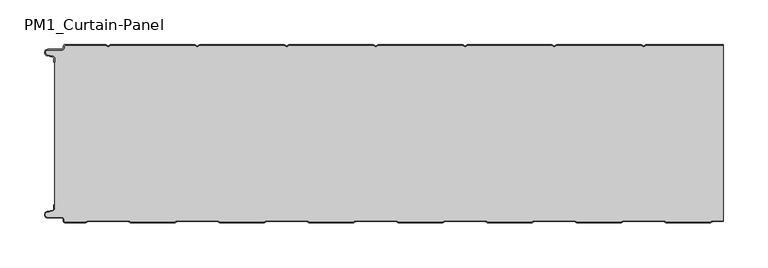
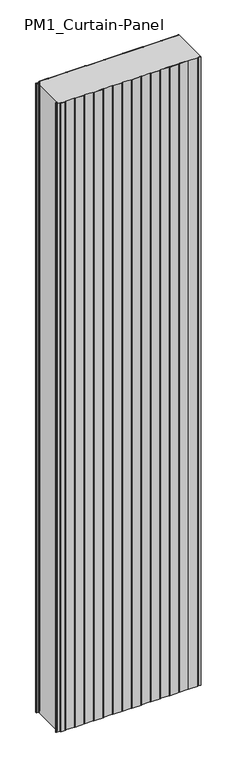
"""IFC4 building model written with IfcOpenShell, lengths in millimetres: plate geometry, PM1_Curtain-Panel : ACH_PM1_Stone-wool-Panel_200M."""

from ifc_helpers import new_model, si_unit, point, frame_2d, origin, origin_with_axes, place, context, project, spatial, polyline, circle_curve, trimmed, segment, composite_curve, outline, extrude, source, transform, mapped, element, save


def pm1_curtain_panel_7c5191db(model_context):
    return source(origin(), model_context, "Body", "SweptSolid", [
        extrude(outline(composite_curve([segment(trimmed(circle_curve(frame_2d((-377.0, -15.878557)), 2.0), [point((-375.0, -15.878557))], [point((-376.5500978, -13.9298169))], True, "CARTESIAN"), True, "CONTINUOUS"), segment(polyline([(-376.5500978, -13.9298169), (-382.7098239, -12.507732)]), True, "CONTINUOUS"), segment(trimmed(circle_curve(frame_2d((-381.9, -9.0)), 3.6), [point((-382.7098239, -12.507732))], [point((-381.9, -5.4))], False, "CARTESIAN"), True, "CONTINUOUS"), segment(polyline([(-381.9, -5.4), (-366.4, -5.4)]), True, "CONTINUOUS"), segment(trimmed(circle_curve(frame_2d((-366.4, -3.4)), 2.0), [point((-366.4, -5.4))], [point((-364.4, -3.4))], True, "CARTESIAN"), True, "CONTINUOUS"), segment(polyline([(-364.4, -3.4), (-364.4, -2.0)]), True, "CONTINUOUS"), segment(trimmed(circle_curve(frame_2d((-362.4, -2.0)), 2.0), [point((-364.4, -2.0))], [point((-362.4, 0.0))], False, "CARTESIAN"), True, "CONTINUOUS"), segment(polyline([(-362.4, 0.0), (-317.0999995, 0.0), (-314.4, -1.5588455), (-311.7000005, 0.0), (-217.0999995, 0.0), (-214.4, -1.5588455), (-211.7000005, 0.0), (-117.0999995, 0.0), (-114.4, -1.5588455), (-111.7000005, 0.0), (-17.0999995, 0.0), (-14.4, -1.5588455), (-11.7000005, 0.0), (82.9000005, 0.0), (85.6, -1.5588455), (88.2999995, 0.0), (182.9000005, 0.0), (185.6, -1.5588455), (188.2999995, 0.0), (282.9000005, 0.0), (285.6, -1.5588455), (288.2999995, 0.0), (375.0, 0.0), (375.0, -0.8), (288.5143588, -0.8), (285.6, -2.482606), (282.6856412, -0.8), (188.5143588, -0.8), (185.6, -2.482606), (182.6856412, -0.8), (88.5143588, -0.8), (85.6, -2.482606), (82.6856412, -0.8), (-11.4856412, -0.8), (-14.4, -2.482606), (-17.3143588, -0.8), (-111.4856412, -0.8), (-114.4, -2.482606), (-117.3143588, -0.8), (-211.4856412, -0.8), (-214.4, -2.482606), (-217.3143588, -0.8), (-311.4856412, -0.8), (-314.4, -2.482606), (-317.3143588, -0.8), (-362.4, -0.8)]), True, "CONTINUOUS"), segment(trimmed(circle_curve(frame_2d((-362.4, -2.0)), 1.2), [point((-362.4, -0.8))], [point((-363.6, -2.0))], True, "CARTESIAN"), True, "CONTINUOUS"), segment(polyline([(-363.6, -2.0), (-363.6, -3.4)]), True, "CONTINUOUS"), segment(trimmed(circle_curve(frame_2d((-366.4, -3.4)), 2.8), [point((-363.6, -3.4))], [point((-366.4, -6.2))], False, "CARTESIAN"), True, "CONTINUOUS"), segment(polyline([(-366.4, -6.2), (-381.9, -6.2)]), True, "CONTINUOUS"), segment(trimmed(circle_curve(frame_2d((-381.9, -9.0)), 2.8), [point((-381.9, -6.2))], [point((-382.529863, -11.7282362))], True, "CARTESIAN"), True, "CONTINUOUS"), segment(polyline([(-382.529863, -11.7282362), (-376.370137, -13.150321)]), True, "CONTINUOUS"), segment(trimmed(circle_curve(frame_2d((-377.0, -15.878557)), 2.8), [point((-376.370137, -13.150321))], [point((-374.2, -15.878557))], False, "CARTESIAN"), True, "CONTINUOUS"), segment(polyline([(-374.2, -15.878557), (-374.2, -20.0), (-375.0, -20.0), (-375.0, -15.878557)]), True, "CONTINUOUS")], self_intersect=False)), origin_with_axes(), (0.0, 0.0, 1.0), 3500.0),
        extrude(outline(composite_curve([segment(polyline([(-374.2, -184.121443), (-374.2, -15.8785573)]), True, "CONTINUOUS"), segment(trimmed(circle_curve(frame_2d((-377.0, -15.8785573)), 2.8), [point((-374.2, -15.8785573))], [point((-376.370137, -13.1503212))], True, "CARTESIAN"), True, "CONTINUOUS"), segment(polyline([(-376.370137, -13.1503212), (-382.5298631, -11.7282362)]), True, "CONTINUOUS"), segment(trimmed(circle_curve(frame_2d((-381.9, -9.0)), 2.8), [point((-382.5298631, -11.7282362))], [point((-381.9, -6.2))], False, "CARTESIAN"), True, "CONTINUOUS"), segment(polyline([(-381.9, -6.2), (-366.4000001, -6.2)]), True, "CONTINUOUS"), segment(trimmed(circle_curve(frame_2d((-366.4000001, -3.4)), 2.8), [point((-366.4000001, -6.2))], [point((-363.6000001, -3.4))], True, "CARTESIAN"), True, "CONTINUOUS"), segment(polyline([(-363.6000001, -3.4), (-363.6000001, -2.0)]), True, "CONTINUOUS"), segment(trimmed(circle_curve(frame_2d((-362.4000001, -2.0)), 1.2), [point((-363.6000001, -2.0))], [point((-362.4000001, -0.8))], False, "CARTESIAN"), True, "CONTINUOUS"), segment(polyline([(-362.4000001, -0.8), (-317.3143589, -0.8), (-314.4000001, -2.482606), (-311.4856412, -0.8), (-217.3143589, -0.8), (-214.4000001, -2.482606), (-211.4856412, -0.8), (-117.3143589, -0.8), (-114.4000001, -2.482606), (-111.4856412, -0.8), (-17.3143589, -0.8), (-14.4000001, -2.482606), (-11.4856412, -0.8), (82.6856411, -0.8), (85.5999999, -2.482606), (88.5143588, -0.8), (182.6856411, -0.8), (185.5999999, -2.482606), (188.5143588, -0.8), (282.6856411, -0.8), (285.5999999, -2.482606), (288.5143588, -0.8), (375.0, -0.8), (375.0, -197.7), (362.9837184, -197.7), (360.3856408, -199.2), (310.8105122, -199.2), (308.2124346, -197.7), (262.9837184, -197.7), (260.3856408, -199.2), (210.8105122, -199.2), (208.2124346, -197.7), (162.9837184, -197.7), (160.3856408, -199.2), (110.8105122, -199.2), (108.2124346, -197.7), (62.9837184, -197.7), (60.3856408, -199.2), (10.8105122, -199.2), (8.2124346, -197.7), (-37.0162816, -197.7), (-39.6143592, -199.2), (-89.1894878, -199.2), (-91.7875654, -197.7), (-137.0162816, -197.7), (-139.6143592, -199.2), (-189.1894878, -199.2), (-191.7875654, -197.7), (-237.0162816, -197.7), (-239.6143592, -199.2), (-289.1894878, -199.2), (-291.7875654, -197.7), (-337.0162816, -197.7), (-339.6143592, -199.2), (-362.4, -199.2)]), True, "CONTINUOUS"), segment(trimmed(circle_curve(frame_2d((-362.4, -198.0)), 1.2), [point((-362.4, -199.2))], [point((-363.6, -198.0))], False, "CARTESIAN"), True, "CONTINUOUS"), segment(polyline([(-363.6, -198.0), (-363.6, -196.5999998)]), True, "CONTINUOUS"), segment(trimmed(circle_curve(frame_2d((-366.4, -196.5999998)), 2.8), [point((-363.6, -196.5999998))], [point((-366.4, -193.7999998))], True, "CARTESIAN"), True, "CONTINUOUS"), segment(polyline([(-366.4, -193.7999998), (-381.9, -193.7999998)]), True, "CONTINUOUS"), segment(trimmed(circle_curve(frame_2d((-381.9, -191.0)), 2.7999998), [point((-381.9, -193.7999998))], [point((-382.529863, -188.271764))], False, "CARTESIAN"), True, "CONTINUOUS"), segment(polyline([(-382.529863, -188.271764), (-376.370137, -186.8496792)]), True, "CONTINUOUS"), segment(trimmed(circle_curve(frame_2d((-377.0, -184.121443)), 2.8), [point((-376.370137, -186.8496792))], [point((-374.2, -184.121443))], True, "CARTESIAN"), True, "CONTINUOUS")], self_intersect=False)), origin_with_axes(), (0.0, 0.0, 1.0), 3500.0),
        extrude(outline(composite_curve([segment(trimmed(circle_curve(frame_2d((-362.4, -198.0)), 2.0), [point((-362.4, -200.0))], [point((-364.4, -198.0))], False, "CARTESIAN"), True, "CONTINUOUS"), segment(polyline([(-364.4, -198.0), (-364.4, -196.6)]), True, "CONTINUOUS"), segment(trimmed(circle_curve(frame_2d((-366.4, -196.6)), 2.0), [point((-364.4, -196.6))], [point((-366.4, -194.6))], True, "CARTESIAN"), True, "CONTINUOUS"), segment(polyline([(-366.4, -194.6), (-381.9, -194.6)]), True, "CONTINUOUS"), segment(trimmed(circle_curve(frame_2d((-381.9, -191.0)), 3.6), [point((-381.9, -194.6))], [point((-382.7098239, -187.4922678))], False, "CARTESIAN"), True, "CONTINUOUS"), segment(polyline([(-382.7098239, -187.4922678), (-376.5500979, -186.070183)]), True, "CONTINUOUS"), segment(trimmed(circle_curve(frame_2d((-377.0, -184.121443)), 2.0), [point((-376.5500979, -186.070183))], [point((-375.0, -184.121443))], True, "CARTESIAN"), True, "CONTINUOUS"), segment(polyline([(-375.0, -184.121443), (-375.0, -180.0), (-374.2, -180.0), (-374.2, -184.121443)]), True, "CONTINUOUS"), segment(trimmed(circle_curve(frame_2d((-377.0, -184.121443)), 2.8), [point((-374.2, -184.121443))], [point((-376.370137, -186.8496792))], False, "CARTESIAN"), True, "CONTINUOUS"), segment(polyline([(-376.370137, -186.8496792), (-382.529863, -188.271764)]), True, "CONTINUOUS"), segment(trimmed(circle_curve(frame_2d((-381.9, -191.0)), 2.8), [point((-382.529863, -188.271764))], [point((-381.9, -193.8))], True, "CARTESIAN"), True, "CONTINUOUS"), segment(polyline([(-381.9, -193.8), (-366.4, -193.8)]), True, "CONTINUOUS"), segment(trimmed(circle_curve(frame_2d((-366.4, -196.6)), 2.8), [point((-366.4, -193.8))], [point((-363.6, -196.6))], False, "CARTESIAN"), True, "CONTINUOUS"), segment(polyline([(-363.6, -196.6), (-363.6, -198.0)]), True, "CONTINUOUS"), segment(trimmed(circle_curve(frame_2d((-362.4, -198.0)), 1.2), [point((-363.6, -198.0))], [point((-362.4, -199.2))], True, "CARTESIAN"), True, "CONTINUOUS"), segment(polyline([(-362.4, -199.2), (-339.6143592, -199.2), (-337.0162816, -197.7), (-291.7875654, -197.7), (-289.1894878, -199.2), (-239.6143592, -199.2), (-237.0162816, -197.7), (-191.7875654, -197.7), (-189.1894878, -199.2), (-139.6143592, -199.2), (-137.0162816, -197.7), (-91.7875654, -197.7), (-89.1894878, -199.2), (-39.6143592, -199.2), (-37.0162816, -197.7), (8.2124346, -197.7), (10.8105122, -199.2), (60.3856408, -199.2), (62.9837184, -197.7), (108.2124346, -197.7), (110.8105122, -199.2), (160.3856408, -199.2), (162.9837184, -197.7), (208.2124346, -197.7), (210.8105122, -199.2), (260.3856408, -199.2), (262.9837184, -197.7), (308.2124346, -197.7), (310.8105122, -199.2), (360.3856408, -199.2), (362.9837184, -197.7), (375.0, -197.7), (375.0, -198.5), (363.1980777, -198.5), (360.6000001, -200.0), (310.5961529, -200.0), (307.9980753, -198.5), (263.1980777, -198.5), (260.6000001, -200.0), (210.5961529, -200.0), (207.9980753, -198.5), (163.1980777, -198.5), (160.6000001, -200.0), (110.5961529, -200.0), (107.9980753, -198.5), (63.1980777, -198.5), (60.6000001, -200.0), (10.5961529, -200.0), (7.9980753, -198.5), (-36.8019223, -198.5), (-39.3999999, -200.0), (-89.4038471, -200.0), (-92.0019247, -198.5), (-136.8019223, -198.5), (-139.3999999, -200.0), (-189.4038471, -200.0), (-192.0019247, -198.5), (-236.8019223, -198.5), (-239.3999999, -200.0), (-289.4038471, -200.0), (-292.0019247, -198.5), (-336.8019223, -198.5), (-339.3999999, -200.0), (-362.4, -200.0)]), True, "CONTINUOUS")], self_intersect=False)), origin_with_axes(), (0.0, 0.0, 1.0), 3500.0),
    ])


if __name__ == "__main__":
    model = new_model("IFC4")
    model_context = context("Model", 3, world=origin())
    ifc_project = project(units=[si_unit("LENGTHUNIT", "METRE", prefix="MILLI")], contexts=[model_context])
    site = spatial("IfcSite", under=ifc_project)
    building = spatial("IfcBuilding", under=site)
    placement = place(None, origin())
    pm1_curtain_panel_shape = pm1_curtain_panel_7c5191db(model_context)
    element("IfcPlate", 1, ObjectType="PM1_Curtain-Panel : ACH_PM1_Stone-wool-Panel_200M", at=placement, inside=building, context=model_context, shape_type="MappedRepresentation", body=[
        mapped(pm1_curtain_panel_shape, transform((0.0, 0.0, 0.0), x_axis=(1.0, 0.0, 0.0), y_axis=(0.0, 1.0, 0.0), z_axis=(0.0, 0.0, 1.0))),
    ])
    save(model, "model.ifc")
